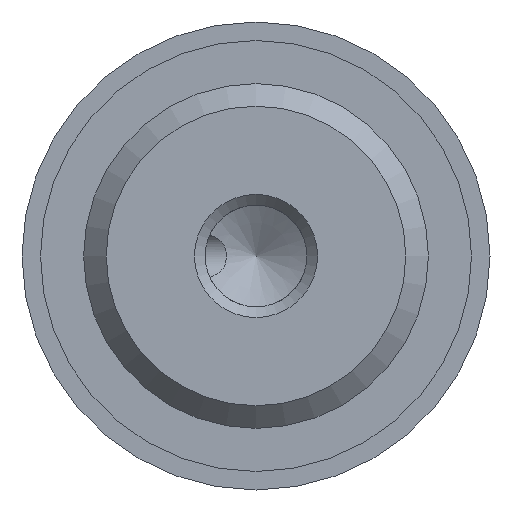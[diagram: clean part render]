
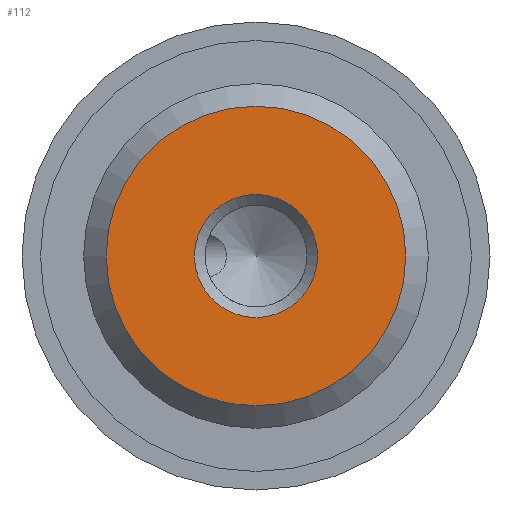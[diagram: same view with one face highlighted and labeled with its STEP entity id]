
A CAD part, front view. The second image highlights one B-rep face of the part: STEP entity #112.
In plain terms, the highlighted planar face has unit normal (0, -1, 0).
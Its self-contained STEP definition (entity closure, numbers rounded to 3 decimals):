
#112 = ADVANCED_FACE( '', ( #208, #209 ), #210, .F. );
#208 = FACE_BOUND( '', #330, .T. );
#209 = FACE_OUTER_BOUND( '', #331, .T. );
#210 = PLANE( '', #332 );
#330 = EDGE_LOOP( '', ( #652 ) );
#331 = EDGE_LOOP( '', ( #653 ) );
#332 = AXIS2_PLACEMENT_3D( '', #654, #655, #656 );
#652 = ORIENTED_EDGE( '', *, *, #874, .F. );
#653 = ORIENTED_EDGE( '', *, *, #876, .T. );
#654 = CARTESIAN_POINT( '', ( 6.08, 0., 0. ) );
#655 = DIRECTION( '', ( 0., 1., 0. ) );
#656 = DIRECTION( '', ( 0., 0., 1. ) );
#874 = EDGE_CURVE( '', #1066, #1066, #1067, .T. );
#876 = EDGE_CURVE( '', #1070, #1070, #1071, .T. );
#1066 = VERTEX_POINT( '', #1463 );
#1067 = CIRCLE( '', #1464, 2.5 );
#1070 = VERTEX_POINT( '', #1467 );
#1071 = CIRCLE( '', #1468, 6.08 );
#1463 = CARTESIAN_POINT( '', ( 2.5, 0., 0. ) );
#1464 = AXIS2_PLACEMENT_3D( '', #1599, #1600, #1601 );
#1467 = CARTESIAN_POINT( '', ( 0., 0., -6.08 ) );
#1468 = AXIS2_PLACEMENT_3D( '', #1605, #1606, #1607 );
#1599 = CARTESIAN_POINT( '', ( 0., 0., 0. ) );
#1600 = DIRECTION( '', ( 0., -1., 0. ) );
#1601 = DIRECTION( '', ( 1., 0., 0. ) );
#1605 = CARTESIAN_POINT( '', ( 0., 0., 0. ) );
#1606 = DIRECTION( '', ( 0., -1., 0. ) );
#1607 = DIRECTION( '', ( 0., 0., -1. ) );
